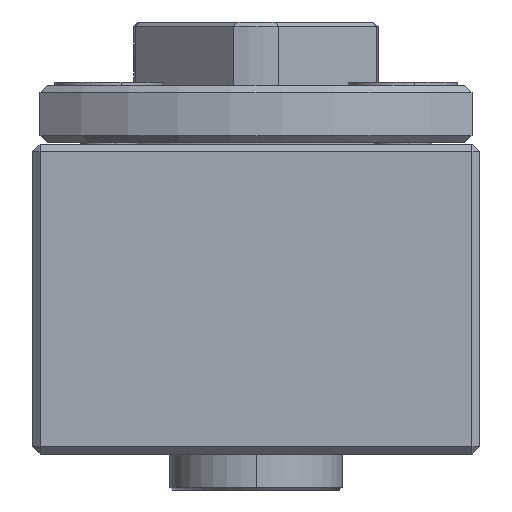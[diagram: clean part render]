
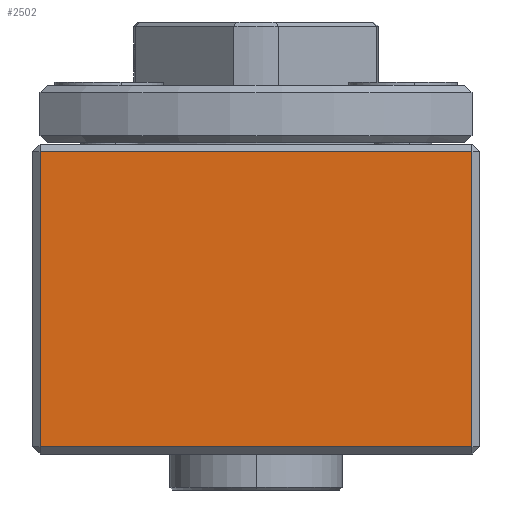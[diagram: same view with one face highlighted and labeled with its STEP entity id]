
A CAD part, left-side view. The second image highlights one B-rep face of the part: STEP entity #2502.
In plain terms, the highlighted planar face has unit normal (-1, 0, 0).
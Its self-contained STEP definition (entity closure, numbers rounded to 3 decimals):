
#936 = EDGE_LOOP ( 'NONE', ( #1293, #1294, #1295, #1296 ) ) ;
#1293 = ORIENTED_EDGE ( 'NONE', *, *, #1525, .T. ) ;
#1294 = ORIENTED_EDGE ( 'NONE', *, *, #1526, .T. ) ;
#1295 = ORIENTED_EDGE ( 'NONE', *, *, #1527, .T. ) ;
#1296 = ORIENTED_EDGE ( 'NONE', *, *, #1528, .T. ) ;
#1525 = EDGE_CURVE ( 'NONE', #3433, #3364, #4439, .T. ) ;
#1526 = EDGE_CURVE ( 'NONE', #3364, #3369, #4430, .T. ) ;
#1527 = EDGE_CURVE ( 'NONE', #3369, #3370, #4442, .T. ) ;
#1528 = EDGE_CURVE ( 'NONE', #3370, #3433, #4444, .T. ) ;
#2502 = ADVANCED_FACE ( 'NONE', ( #6009 ), #7167, .F. ) ;
#3364 = VERTEX_POINT ( 'NONE', #8353 ) ;
#3369 = VERTEX_POINT ( 'NONE', #8358 ) ;
#3370 = VERTEX_POINT ( 'NONE', #8359 ) ;
#3433 = VERTEX_POINT ( 'NONE', #8422 ) ;
#4430 = LINE ( 'NONE', #5010, #4443 ) ;
#4439 = LINE ( 'NONE', #5004, #4441 ) ;
#4441 = VECTOR ( 'NONE', #5005, 1000. ) ;
#4442 = LINE ( 'NONE', #5015, #4445 ) ;
#4443 = VECTOR ( 'NONE', #5014, 1000. ) ;
#4444 = LINE ( 'NONE', #5017, #4447 ) ;
#4445 = VECTOR ( 'NONE', #5016, 1000. ) ;
#4447 = VECTOR ( 'NONE', #5018, 1000. ) ;
#5004 = CARTESIAN_POINT ( 'NONE',  ( -31., 15., 10.75 ) ) ;
#5005 = DIRECTION ( 'NONE',  ( 0., 0., -1. ) ) ;
#5010 = CARTESIAN_POINT ( 'NONE',  ( -31., -15.5, -10.25 ) ) ;
#5014 = DIRECTION ( 'NONE',  ( 0., -1., 0. ) ) ;
#5015 = CARTESIAN_POINT ( 'NONE',  ( -31., -15., 10.75 ) ) ;
#5016 = DIRECTION ( 'NONE',  ( 0., 0., 1. ) ) ;
#5017 = CARTESIAN_POINT ( 'NONE',  ( -31., -15.5, 10.25 ) ) ;
#5018 = DIRECTION ( 'NONE',  ( 0., 1., 0. ) ) ;
#6009 = FACE_OUTER_BOUND ( 'NONE', #936, .T. ) ;
#6911 = AXIS2_PLACEMENT_3D ( 'NONE', #7160, #7168, #7169 ) ;
#7160 = CARTESIAN_POINT ( 'NONE',  ( -31., -15.5, 10.75 ) ) ;
#7167 = PLANE ( 'NONE',  #6911 ) ;
#7168 = DIRECTION ( 'NONE',  ( 1., 0., 0. ) ) ;
#7169 = DIRECTION ( 'NONE',  ( 0., 0., -1. ) ) ;
#8353 = CARTESIAN_POINT ( 'NONE',  ( -31., 15., -10.25 ) ) ;
#8358 = CARTESIAN_POINT ( 'NONE',  ( -31., -15., -10.25 ) ) ;
#8359 = CARTESIAN_POINT ( 'NONE',  ( -31., -15., 10.25 ) ) ;
#8422 = CARTESIAN_POINT ( 'NONE',  ( -31., 15., 10.25 ) ) ;
